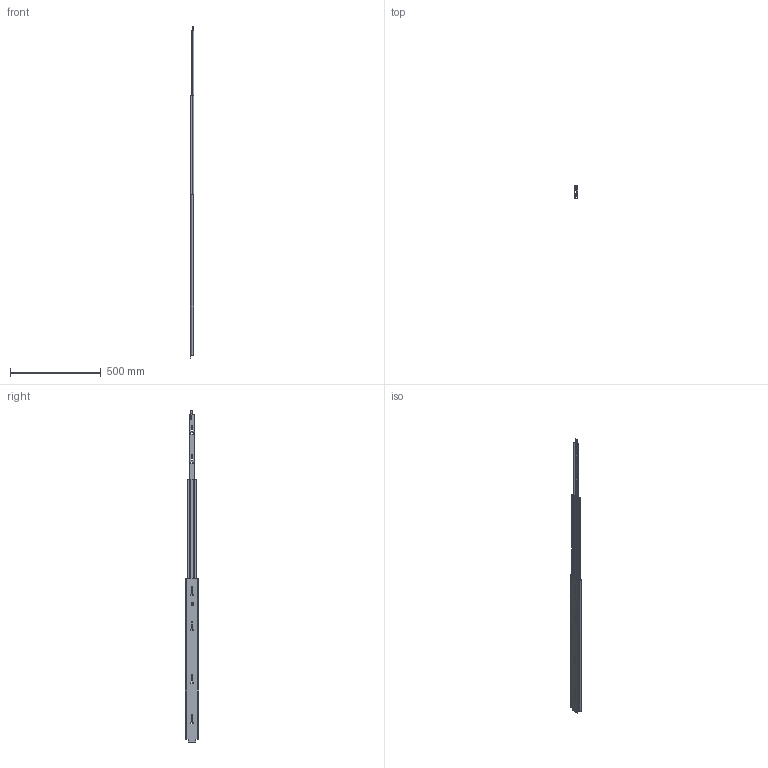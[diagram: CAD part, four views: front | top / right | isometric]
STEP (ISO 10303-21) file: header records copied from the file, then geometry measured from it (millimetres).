
FILE_DESCRIPTION (( 'STEP AP214' ), '1' );
FILE_NAME ('DSCHHD900MML-OPEN.STEP', '2018-11-29T14:13:35', ( '' ), ( '' ), 'SwSTEP 2.0', 'SolidWorks 2017', '' );
FILE_SCHEMA (( 'AUTOMOTIVE_DESIGN' ));
Length unit declared in the file: millimetre
Products named in the file (5): DSCHHDL-2_900; DSCHHDL-4; DSCHHDL-3_900; DSCHHDL-1_900; DSCHHD900MML-OPEN
Assembly tree (4 placements, depth 2):
  DSCHHD900MML-OPEN
    DSCHHDL-3_900
    DSCHHDL-2_900
    DSCHHDL-1_900
    DSCHHDL-4
Bounding box: 19.4 x 75.28 x 1826.1 mm (x, y, z)
Volume: 460539.7 mm3; surface area: 474070.1 mm2
Topology: 4 solids, 4 shells, 857 faces, 2333 edges, 1546 vertices
Faces by surface type: plane 476, bspline 237, cylinder 136, torus 4, sphere 4
Entity records: 29049 total; most frequent: CARTESIAN_POINT 8168, ORIENTED_EDGE 4658, DIRECTION 3387, EDGE_CURVE 2329, LINE 1577, VECTOR 1577, VERTEX_POINT 1546, EDGE_LOOP 991
